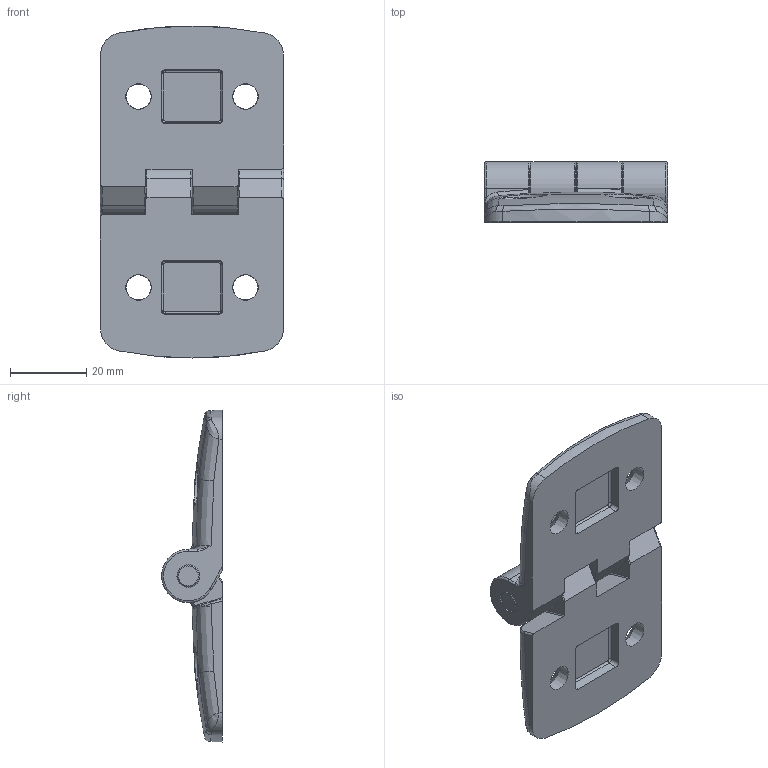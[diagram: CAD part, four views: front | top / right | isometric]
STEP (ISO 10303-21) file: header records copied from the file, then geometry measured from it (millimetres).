
FILE_DESCRIPTION (( 'STEP AP214' ), '1' );
FILE_NAME ('095a4545f.STEP', '2011-07-07T14:35:49', ( 'DE01PC042' ), ( 'Fath GmbH' ), 'SwSTEP 2.0', 'SolidWorks 2011', '' );
FILE_SCHEMA (( 'AUTOMOTIVE_DESIGN' ));
Length unit declared in the file: millimetre
Products named in the file (3): 095a40f_095A45F - 114348; 095a-02; 095a4545f
Assembly tree (3 placements, depth 2):
  095a4545f
    095a40f_095A45F - 114348  x2
    095a-02
Bounding box: 48 x 15.9 x 87 mm (x, y, z)
Volume: 27249.4 mm3; surface area: 13698.4 mm2
Topology: 3 solids, 3 shells, 381 faces, 968 edges, 579 vertices
Faces by surface type: plane 188, cylinder 89, bspline 62, torus 24, cone 18
Full cylindrical faces by diameter (mm): 6 x5
Entity records: 9920 total; most frequent: CARTESIAN_POINT 3229, ORIENTED_EDGE 1430, DIRECTION 1318, EDGE_CURVE 715, AXIS2_PLACEMENT_3D 495, VERTEX_POINT 439, LINE 328, VECTOR 328
